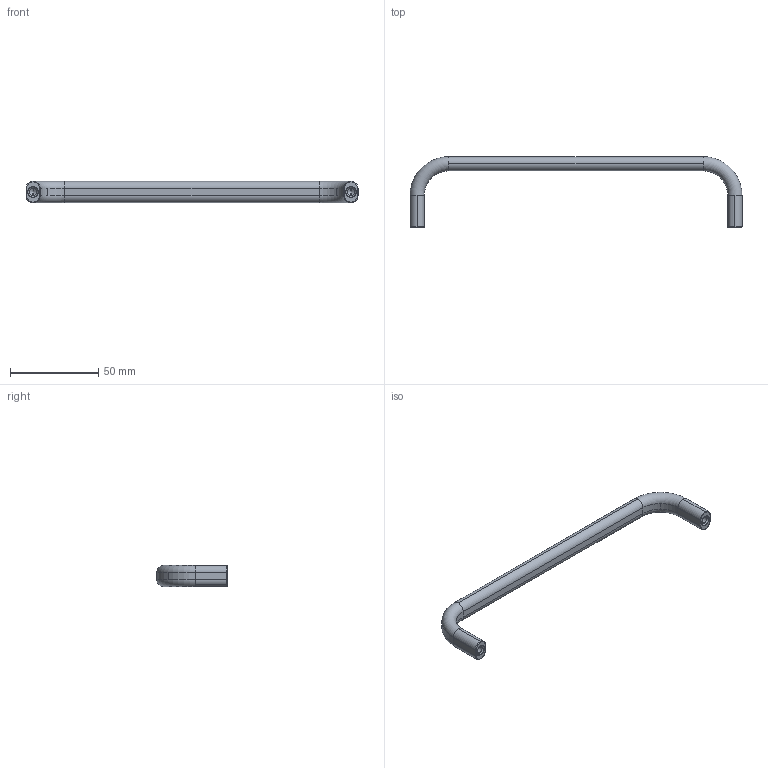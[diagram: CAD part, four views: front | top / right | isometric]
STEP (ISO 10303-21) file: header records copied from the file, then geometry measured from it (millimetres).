
FILE_DESCRIPTION((''),'2;1');
FILE_NAME('c:\wix\Knobs\7892\7892.W018.stp','2003-04-04T16:41:56',('joanc'),(''),'Autodesk Inventor (tm) 5.3','Autodesk Inventor (tm) 5.3','');
FILE_SCHEMA(('CONFIG_CONTROL_DESIGN'));
Length unit declared in the file: millimetre
Products named in the file (1): 7892.W018
Bounding box: 188 x 40 x 12 mm (x, y, z)
Volume: 19046.7 mm3; surface area: 8355.2 mm2
Topology: 1 solids, 1 shells, 72 faces, 166 edges, 94 vertices
Faces by surface type: cylinder 36, torus 16, cone 12, plane 8
Entity records: 2105 total; most frequent: DIRECTION 408, CARTESIAN_POINT 329, ORIENTED_EDGE 324, AXIS2_PLACEMENT_3D 173, EDGE_CURVE 162, CIRCLE 100, VERTEX_POINT 94, EDGE_LOOP 74
